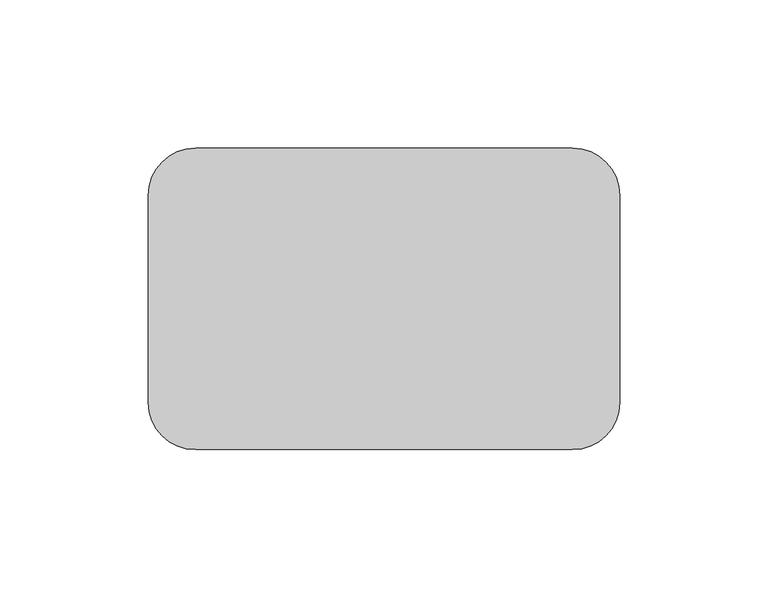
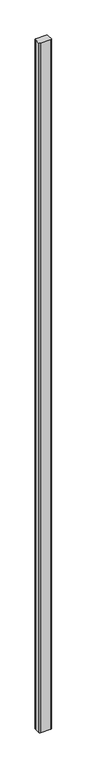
"""IFC4 building model written with IfcOpenShell, lengths in millimetres: proxy geometry, GROUTED CMU CELLS : GROUTED CMU CELLS."""

from ifc_helpers import new_model, si_unit, point, frame_2d, origin, origin_with_axes, place, context, project, spatial, polyline, circle_curve, trimmed, segment, composite_curve, outline, extrude, source, transform, mapped, element, save


def generic_models_c2dffeef(model_context):
    return source(origin(), model_context, "Body", "SweptSolid", [
        extrude(outline(composite_curve([segment(trimmed(circle_curve(frame_2d((63.5, 34.925)), 15.875), [point((63.5, 50.8))], [point((79.375, 34.925))], False, "CARTESIAN"), True, "CONTINUOUS"), segment(polyline([(79.375, 34.925), (79.375, -34.925)]), True, "CONTINUOUS"), segment(trimmed(circle_curve(frame_2d((63.5, -34.925)), 15.875), [point((79.375, -34.925))], [point((63.5, -50.8))], False, "CARTESIAN"), True, "CONTINUOUS"), segment(polyline([(63.5, -50.8), (-63.5, -50.8)]), True, "CONTINUOUS"), segment(trimmed(circle_curve(frame_2d((-63.5, -34.925)), 15.875), [point((-63.5, -50.8))], [point((-79.375, -34.925))], False, "CARTESIAN"), True, "CONTINUOUS"), segment(polyline([(-79.375, -34.925), (-79.375, 34.925)]), True, "CONTINUOUS"), segment(trimmed(circle_curve(frame_2d((-63.5, 34.925)), 15.875), [point((-79.375, 34.925))], [point((-63.5, 50.8))], False, "CARTESIAN"), True, "CONTINUOUS"), segment(polyline([(-63.5, 50.8), (63.5, 50.8)]), True, "CONTINUOUS")], self_intersect=False)), origin_with_axes(), (0.0, 0.0, 1.0), 9144.0),
    ])


if __name__ == "__main__":
    model = new_model("IFC4")
    model_context = context("Model", 3, world=origin())
    ifc_project = project(units=[si_unit("LENGTHUNIT", "METRE", prefix="MILLI")], contexts=[model_context])
    site = spatial("IfcSite", under=ifc_project)
    building = spatial("IfcBuilding", under=site)
    placement = place(None, origin())
    generic_models_shape = generic_models_c2dffeef(model_context)
    element("IfcBuildingElementProxy", 1, Name="GROUTED CMU CELLS : GROUTED CMU CELLS", ObjectType="GROUTED CMU CELLS : GROUTED CMU CELLS", at=placement, inside=building, context=model_context, shape_type="MappedRepresentation", body=[
        mapped(generic_models_shape, transform((0.0, 0.0, 0.0), x_axis=(1.0, 0.0, 0.0), y_axis=(0.0, 1.0, 0.0), z_axis=(0.0, 0.0, 1.0))),
    ])
    save(model, "model.ifc")
